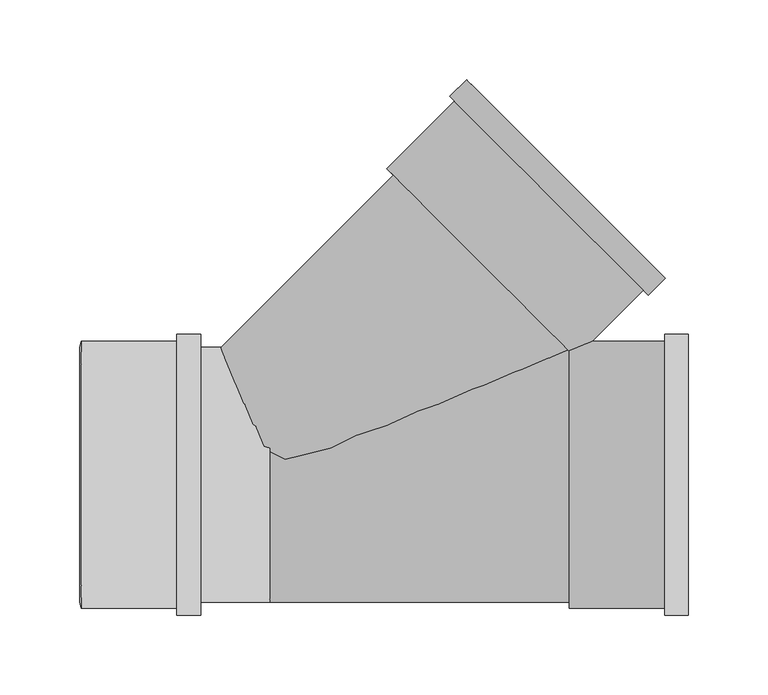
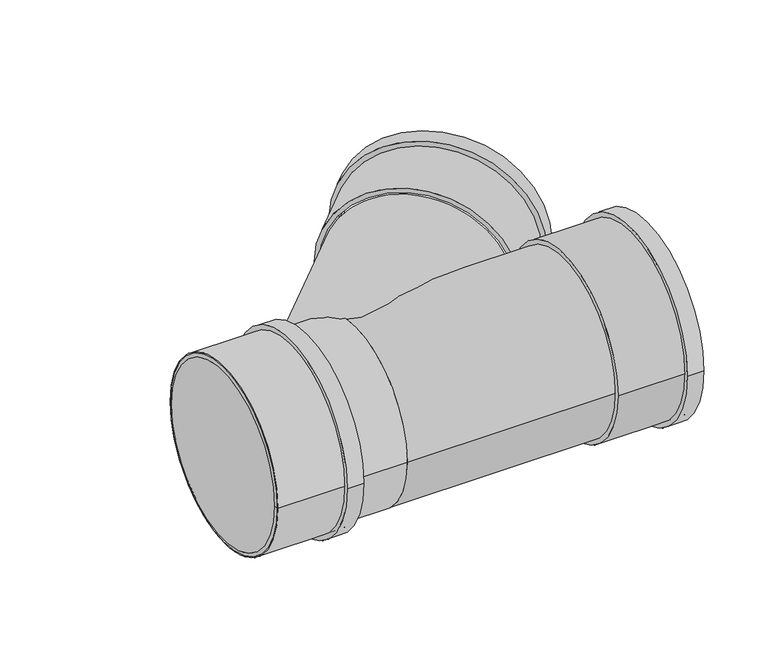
"""IFC4 building model written with IfcOpenShell, lengths in millimetres: pipe fitting geometry, Superdrain HTEA Branch : Superdrain HTEA Branch."""

from ifc_helpers import new_model, si_unit, point, frame, origin, origin_2d, place, context, project, spatial, polyline, circle_curve, trimmed, segment, composite_curve, outline, extrude, source, transform, mapped, element, save
from ifc_brep_helpers import plane_surface, cylinder_surface, revolved_surface, advanced_brep


def pipe_fitting_dea01873(model_context):
    return source(origin(), model_context, "Body", "SolidModel", [
        extrude(outline(composite_curve([segment(trimmed(circle_curve(origin_2d(), 84.0), [point((84.0, 0.0))], [point((-84.0, 0.0))], False, "CARTESIAN"), True, "CONTINUOUS"), segment(trimmed(circle_curve(origin_2d(), 84.0), [point((-84.0, 0.0))], [point((84.0, 0.0))], False, "CARTESIAN"), True, "CONTINUOUS")], self_intersect=False), holes=[composite_curve([segment(trimmed(circle_curve(origin_2d(), 80.0), [point((80.0, 0.0))], [point((-80.0, 0.0))], True, "CARTESIAN"), True, "CONTINUOUS"), segment(trimmed(circle_curve(origin_2d(), 80.0), [point((-80.0, 0.0))], [point((80.0, 0.0))], True, "CARTESIAN"), True, "CONTINUOUS")], self_intersect=False)]), frame((-118.6, 0.0, 0.0), z_axis=(1.0, 0.0, 0.0), x_axis=(0.0, 1.0, 0.0)), (0.0, 0.0, 1.0), 75.0),
        extrude(outline(composite_curve([segment(trimmed(circle_curve(origin_2d(), 88.2), [point((88.2, 0.0))], [point((-88.2, 0.0))], False, "CARTESIAN"), True, "CONTINUOUS"), segment(trimmed(circle_curve(origin_2d(), 88.2), [point((-88.2, 0.0))], [point((88.2, 0.0))], False, "CARTESIAN"), True, "CONTINUOUS")], self_intersect=False), holes=[composite_curve([segment(trimmed(circle_curve(origin_2d(), 80.0), [point((80.0, 0.0))], [point((-80.0, 0.0))], True, "CARTESIAN"), True, "CONTINUOUS"), segment(trimmed(circle_curve(origin_2d(), 80.0), [point((-80.0, 0.0))], [point((80.0, 0.0))], True, "CARTESIAN"), True, "CONTINUOUS")], self_intersect=False)]), frame((-58.6, 0.0, 0.0), z_axis=(1.0, 0.0, 0.0), x_axis=(0.0, 1.0, 0.0)), (0.0, 0.0, 1.0), 15.0),
        advanced_brep(
        [(-119.6, 80.0, 0.0), (-119.6, -80.0, 0.0), (-118.6, 84.0, 0.0), (-118.6, -84.0, 0.0)],
        [
            (0, 1, circle_curve(frame((-119.6, 0.0, 0.0), z_axis=(-1.0, 0.0, 0.0), x_axis=(0.0, 1.0000000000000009, 0.0)), 80.0)),
            (1, 0, circle_curve(frame((-119.6, 0.0, 0.0), z_axis=(-1.0, 0.0, 0.0), x_axis=(0.0, -1.0000000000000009, 0.0)), 80.0)),
            (2, 3, circle_curve(frame((-118.6, 0.0, 0.0), z_axis=(1.0, 0.0, 0.0), x_axis=(0.0, -1.0000000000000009, 0.0)), 84.0)),
            (3, 2, circle_curve(frame((-118.6, 0.0, 0.0), z_axis=(1.0, 0.0, 0.0), x_axis=(0.0, 1.0000000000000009, 0.0)), 84.0)),
            (3, 1),
            (0, 2),
        ],
        [
            plane_surface(frame((-119.6, 0.0, 0.0), z_axis=(-1.0, 0.0, 0.0), x_axis=(0.0, 0.0, -1.0))),
            plane_surface(frame((-118.6, 0.0, 0.0), z_axis=(1.0, 0.0, 0.0), x_axis=(0.0, 0.0, -1.0))),
            revolved_surface(polyline([(-119.6, 79.99999999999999, 0.0), (-118.6, 84.0, 0.0)]), (-139.6, 0.0, 0.0), (1.0000000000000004, 0.0, 0.0)),
            revolved_surface(polyline([(-119.6, -79.99999999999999, 0.0), (-118.6, -84.0, 0.0)]), (-139.6, 0.0, 0.0), (1.0000000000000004, 0.0, 0.0)),
        ],
        [
            (0, [[1, 2]]),
            (1, [[3, 4]]),
            (2, [[-4, 5, -1, 6]]),
            (3, [[-3, -6, -2, -5]]),
        ],
    ),
        advanced_brep(
        [(187.9, -84.0, 0.0), (187.9, 84.0, 0.0), (262.9, -84.0, 0.0), (262.9, 84.0, 0.0), (262.9, -80.0, 0.0), (262.9, 80.0, 0.0), (188.9, -80.0, 0.0), (188.9, 80.0, 0.0)],
        [
            (0, 1, circle_curve(frame((187.9, 0.0, 0.0), z_axis=(-1.0, 0.0, 0.0), x_axis=(0.0, 1.0, 0.0)), 84.0)),
            (1, 0, circle_curve(frame((187.9, 0.0, 0.0), z_axis=(-1.0, 0.0, 0.0), x_axis=(0.0, 1.0, 0.0)), 84.0)),
            (2, 3, circle_curve(frame((262.9, 0.0, 0.0), z_axis=(1.0, 0.0, 0.0), x_axis=(0.0, 1.0, 0.0)), 84.0)),
            (3, 2, circle_curve(frame((262.9, 0.0, 0.0), z_axis=(1.0, 0.0, 0.0), x_axis=(0.0, 1.0, 0.0)), 84.0)),
            (4, 5, circle_curve(frame((262.9, 0.0, 0.0), z_axis=(-1.0, 0.0, 0.0), x_axis=(0.0, 1.0, 0.0)), 80.0)),
            (5, 4, circle_curve(frame((262.9, 0.0, 0.0), z_axis=(-1.0, 0.0, 0.0), x_axis=(0.0, 1.0, 0.0)), 80.0)),
            (0, 2),
            (3, 1),
            (6, 7, circle_curve(frame((188.9, 0.0, 0.0), z_axis=(-1.0, 0.0, 0.0), x_axis=(0.0, 1.0, 0.0)), 80.0)),
            (7, 5),
            (4, 6),
            (7, 6, circle_curve(frame((188.9, 0.0, 0.0), z_axis=(-1.0, 0.0, 0.0), x_axis=(0.0, 1.0, 0.0)), 80.0)),
        ],
        [
            plane_surface(frame((187.9, 0.0, 0.0), z_axis=(-1.0, 0.0, 0.0), x_axis=(0.0, 0.0, 1.0))),
            plane_surface(frame((262.9, 0.0, 0.0), z_axis=(1.0, 0.0, 0.0), x_axis=(0.0, 0.0, 1.0))),
            cylinder_surface(frame((187.9, 0.0, 0.0), z_axis=(-1.0, 0.0, 0.0), x_axis=(0.0, 1.0, 0.0)), 84.0),
            revolved_surface(polyline([(188.9, 80.0, 0.0), (262.9, 80.0, 0.0)]), (188.9, 0.0, 0.0), (-1.0, 0.0, 0.0)),
            plane_surface(frame((188.9, 0.0, 0.0), z_axis=(1.0, 0.0, 0.0), x_axis=(0.0, 0.0, 1.0))),
        ],
        [
            (0, [[1, 2]]),
            (1, [[3, 4], [5, 6]]),
            (2, [[-1, 7, -4, 8]]),
            (2, [[-2, -8, -3, -7]]),
            (3, [[9, 10, -5, 11]]),
            (3, [[12, -11, -6, -10]]),
            (4, [[-12, -9]]),
        ],
    ),
        extrude(outline(composite_curve([segment(trimmed(circle_curve(origin_2d(), 88.2), [point((88.2, 0.0))], [point((-88.2, 0.0))], False, "CARTESIAN"), True, "CONTINUOUS"), segment(trimmed(circle_curve(origin_2d(), 88.2), [point((-88.2, 0.0))], [point((88.2, 0.0))], False, "CARTESIAN"), True, "CONTINUOUS")], self_intersect=False), holes=[composite_curve([segment(trimmed(circle_curve(origin_2d(), 80.0), [point((80.0, 0.0))], [point((-80.0, 0.0))], True, "CARTESIAN"), True, "CONTINUOUS"), segment(trimmed(circle_curve(origin_2d(), 80.0), [point((-80.0, 0.0))], [point((80.0, 0.0))], True, "CARTESIAN"), True, "CONTINUOUS")], self_intersect=False)]), frame((247.9, 0.0, 0.0), z_axis=(1.0, 0.0, 0.0), x_axis=(0.0, 1.0, 0.0)), (0.0, 0.0, 1.0), 15.0),
        extrude(outline(composite_curve([segment(trimmed(circle_curve(origin_2d(), 78.4), [point((0.0, 78.3999999))], [point((0.0, -78.3999999))], False, "CARTESIAN"), True, "CONTINUOUS"), segment(trimmed(circle_curve(origin_2d(), 78.4), [point((0.0, -78.3999999))], [point((0.0, 78.3999999))], False, "CARTESIAN"), True, "CONTINUOUS")], self_intersect=False)), frame((0.0, 0.0, 0.0), z_axis=(0.7071067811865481, 0.7071067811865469, 0.0), x_axis=(0.0, 0.0, 1.0)), (0.0, 0.0, 1.0), 187.9),
        extrude(outline(composite_curve([segment(trimmed(circle_curve(origin_2d(), 80.0), [point((80.0, 0.0))], [point((-80.0, 0.0))], False, "CARTESIAN"), True, "CONTINUOUS"), segment(trimmed(circle_curve(origin_2d(), 80.0), [point((-80.0, 0.0))], [point((80.0, 0.0))], False, "CARTESIAN"), True, "CONTINUOUS")], self_intersect=False)), frame((-118.6, 0.0, 0.0), z_axis=(1.0, 0.0, 0.0), x_axis=(0.0, 1.0, 0.0)), (0.0, 0.0, 1.0), 118.6),
        extrude(outline(composite_curve([segment(trimmed(circle_curve(origin_2d(), 80.0), [point((-80.0, 0.0))], [point((80.0, 0.0))], False, "CARTESIAN"), True, "CONTINUOUS"), segment(trimmed(circle_curve(origin_2d(), 80.0), [point((80.0, 0.0))], [point((-80.0, 0.0))], False, "CARTESIAN"), True, "CONTINUOUS")], self_intersect=False)), frame((0.0, 0.0, 0.0), z_axis=(1.0, 0.0, 0.0), x_axis=(0.0, 1.0, 0.0)), (0.0, 0.0, 1.0), 187.9),
        extrude(outline(composite_curve([segment(trimmed(circle_curve(origin_2d(), 88.2), [point((0.0, 88.2))], [point((0.0, -88.2))], False, "CARTESIAN"), True, "CONTINUOUS"), segment(trimmed(circle_curve(origin_2d(), 88.2), [point((0.0, -88.2))], [point((0.0, 88.2))], False, "CARTESIAN"), True, "CONTINUOUS")], self_intersect=False), holes=[composite_curve([segment(trimmed(circle_curve(origin_2d(), 80.0), [point((0.0, 80.0))], [point((0.0, -80.0))], True, "CARTESIAN"), True, "CONTINUOUS"), segment(trimmed(circle_curve(origin_2d(), 80.0), [point((0.0, -80.0))], [point((0.0, 80.0))], True, "CARTESIAN"), True, "CONTINUOUS")], self_intersect=False)]), frame((175.2917711, 175.2917711, 0.0), z_axis=(0.7071067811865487, 0.7071067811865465, 0.0), x_axis=(0.0, 0.0, 1.0)), (0.0, 0.0, 1.0), 15.0),
        extrude(outline(composite_curve([segment(trimmed(circle_curve(origin_2d(), 84.0), [point((0.0, 84.0))], [point((0.0, -84.0))], False, "CARTESIAN"), True, "CONTINUOUS"), segment(trimmed(circle_curve(origin_2d(), 84.0), [point((0.0, -84.0))], [point((0.0, 84.0))], False, "CARTESIAN"), True, "CONTINUOUS")], self_intersect=False), holes=[composite_curve([segment(trimmed(circle_curve(origin_2d(), 80.0), [point((0.0, 80.0))], [point((0.0, -80.0))], True, "CARTESIAN"), True, "CONTINUOUS"), segment(trimmed(circle_curve(origin_2d(), 80.0), [point((0.0, -80.0))], [point((0.0, 80.0))], True, "CARTESIAN"), True, "CONTINUOUS")], self_intersect=False)]), frame((132.8653642, 132.8653642, 0.0), z_axis=(0.7071067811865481, 0.7071067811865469, 0.0), x_axis=(0.0, 0.0, 1.0)), (0.0, 0.0, 1.0), 75.0),
    ])


if __name__ == "__main__":
    model = new_model("IFC4")
    model_context = context("Model", 3, world=origin())
    ifc_project = project(units=[si_unit("LENGTHUNIT", "METRE", prefix="MILLI")], contexts=[model_context])
    site = spatial("IfcSite", under=ifc_project)
    building = spatial("IfcBuilding", under=site)
    placement = place(None, origin())
    pipe_fitting_shape = pipe_fitting_dea01873(model_context)
    element("IfcPipeFitting", 1, ObjectType="Superdrain HTEA Branch : Superdrain HTEA Branch", at=placement, inside=building, context=model_context, shape_type="MappedRepresentation", body=[
        mapped(pipe_fitting_shape, transform((0.0, 0.0, 0.0), x_axis=(1.0, 0.0, 0.0), y_axis=(0.0, 1.0, 0.0), z_axis=(0.0, 0.0, 1.0))),
    ])
    save(model, "model.ifc")
